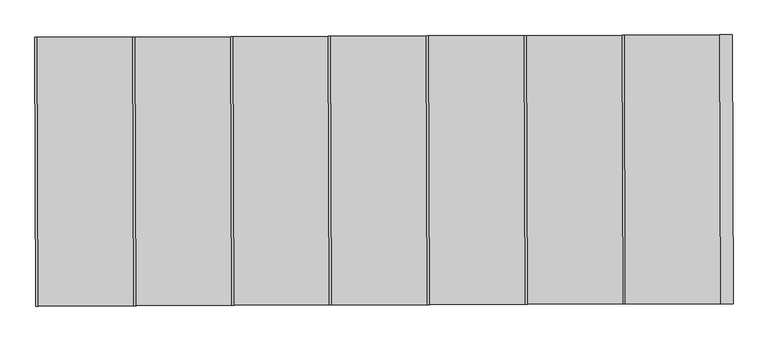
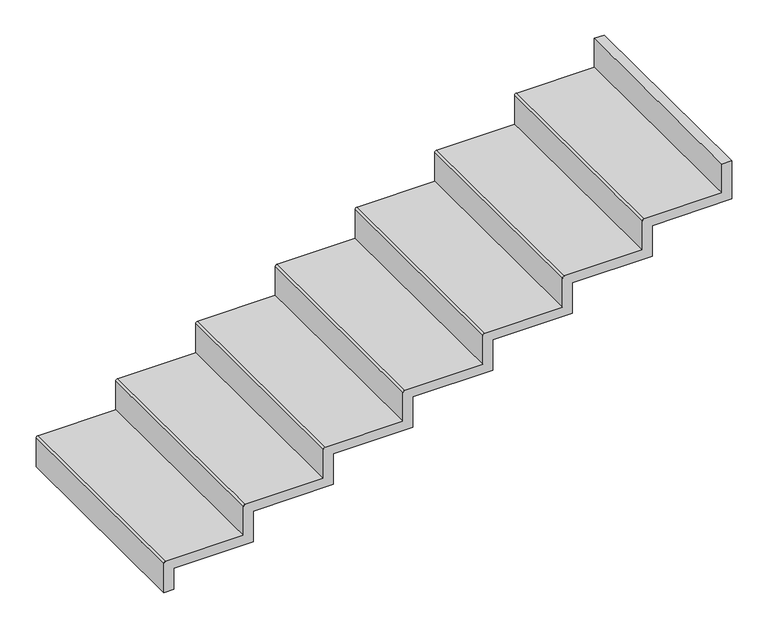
"""IFC4 building model written with IfcOpenShell, lengths in millimetres: stair flight geometry, Huella 50 mm Contrahuella 13 mm."""

from ifc_helpers import new_model, si_unit, frame, origin, place, context, project, spatial, circle_curve, source, transform, mapped, element, save
from ifc_brep_helpers import plane_surface, cylinder_surface, advanced_brep


def stair_flight_b078fae6(model_context):
    return source(origin(), model_context, "Body", "AdvancedBrep", [
        advanced_brep(
        [(30059.1161476, 4035.3442519, -1218.75), (30059.1161476, 4035.3442519, -1370.0), (30109.1158403, 4035.519565, -1370.0), (30109.1158403, 4035.519565, -1258.75), (30509.1133815, 4036.92207, -1258.75), (30509.1133815, 4036.92207, -1097.5), (30909.1109227, 4038.3245751, -1097.5), (30909.1109227, 4038.3245751, -936.25), (31309.1084639, 4039.7270801, -936.25), (31309.1084639, 4039.7270801, -775.0), (31709.1060051, 4041.1295851, -775.0), (31709.1060051, 4041.1295851, -613.75), (32109.1035463, 4042.5320902, -613.75), (32109.1035463, 4042.5320902, -452.5), (32509.1010875, 4043.9345952, -452.5), (32509.1010875, 4043.9345952, -291.25), (32909.0986288, 4045.3371002, -291.25), (32909.0986288, 4045.3371002, -90.0), (32859.0989361, 4045.1617871, -90.0), (32859.0989361, 4045.1617871, -241.25), (32469.1013334, 4043.7943447, -241.25), (32459.1013949, 4043.7592821, -251.25), (32459.1013949, 4043.7592821, -402.5), (32069.1037922, 4042.3918397, -402.5), (32059.1038537, 4042.356777, -412.5), (32059.1038537, 4042.356777, -563.75), (31669.106251, 4040.9893346, -563.75), (31659.1063125, 4040.954272, -573.75), (31659.1063125, 4040.954272, -725.0), (31269.1087098, 4039.5868296, -725.0), (31259.1087713, 4039.551767, -735.0), (31259.1087713, 4039.551767, -886.25), (30869.1111686, 4038.1843246, -886.25), (30859.11123, 4038.1492619, -896.25), (30859.11123, 4038.1492619, -1047.5), (30469.1136274, 4036.7818195, -1047.5), (30459.1136888, 4036.7467569, -1057.5), (30459.1136888, 4036.7467569, -1208.75), (30069.1160862, 4035.3793145, -1208.75), (30105.2589513, 5135.5128037, -1370.0), (30055.2592586, 5135.3374906, -1370.0), (30055.2592586, 5135.3374906, -1218.75), (30065.2591972, 5135.3725532, -1208.75), (30455.2567998, 5136.7399957, -1208.75), (30455.2567998, 5136.7399957, -1057.5), (30465.2567384, 5136.7750583, -1047.5), (30855.254341, 5138.1425007, -1047.5), (30855.2543411, 5138.1425007, -896.25), (30865.2542796, 5138.1775634, -886.25), (31255.2518823, 5139.5450058, -886.25), (31255.2518823, 5139.5450058, -735.0), (31265.2518208, 5139.5800684, -725.0), (31655.2494235, 5140.9475109, -725.0), (31655.2494235, 5140.9475109, -573.75), (31665.249362, 5140.9825735, -563.75), (32055.2469647, 5142.350016, -563.75), (32055.2469647, 5142.350016, -412.5), (32065.2469032, 5142.3850786, -402.5), (32455.2445059, 5143.752521, -402.5), (32455.2445059, 5143.752521, -251.25), (32465.2444444, 5143.7875837, -241.25), (32855.2420471, 5145.1550261, -241.25), (32855.2420471, 5145.1550261, -90.0), (32905.2417398, 5145.3303392, -90.0), (32905.2417398, 5145.3303392, -291.25), (32505.2441986, 5143.9278342, -291.25), (32505.2441986, 5143.9278342, -452.5), (32105.2466573, 5142.5253291, -452.5), (32105.2466573, 5142.5253291, -613.75), (31705.2491161, 5141.122824, -613.75), (31705.2491161, 5141.122824, -775.0), (31305.2515749, 5139.7203189, -775.0), (31305.2515749, 5139.7203189, -936.25), (30905.2540337, 5138.3178139, -936.25), (30905.2540337, 5138.3178139, -1097.5), (30505.2564925, 5136.9153088, -1097.5), (30505.2564925, 5136.9153088, -1258.75), (30105.2589513, 5135.5128037, -1258.75)],
        [
            (0, 1),
            (1, 2),
            (2, 3),
            (3, 4),
            (4, 5),
            (5, 6),
            (6, 7),
            (7, 8),
            (8, 9),
            (9, 10),
            (10, 11),
            (11, 12),
            (12, 13),
            (13, 14),
            (14, 15),
            (15, 16),
            (16, 17),
            (17, 18),
            (18, 19),
            (19, 20),
            (20, 21, circle_curve(frame((32469.1013334, 4043.7943447, -251.25), z_axis=(0.003506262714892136, -0.9999938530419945, 0.0), x_axis=(0.9999938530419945, 0.003506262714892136, 0.0)), 10.0)),
            (21, 22),
            (22, 23),
            (23, 24, circle_curve(frame((32069.1037922, 4042.3918397, -412.5), z_axis=(0.003506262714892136, -0.9999938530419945, 0.0), x_axis=(0.9999938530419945, 0.003506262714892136, 0.0)), 10.0)),
            (24, 25),
            (25, 26),
            (26, 27, circle_curve(frame((31669.106251, 4040.9893346, -573.75), z_axis=(0.003506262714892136, -0.9999938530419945, 0.0), x_axis=(0.9999938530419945, 0.003506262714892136, 0.0)), 10.0)),
            (27, 28),
            (28, 29),
            (29, 30, circle_curve(frame((31269.1087098, 4039.5868296, -735.0), z_axis=(0.003506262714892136, -0.9999938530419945, 0.0), x_axis=(0.9999938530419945, 0.003506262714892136, 0.0)), 10.0)),
            (30, 31),
            (31, 32),
            (32, 33, circle_curve(frame((30869.1111686, 4038.1843246, -896.25), z_axis=(0.003506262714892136, -0.9999938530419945, 0.0), x_axis=(0.9999938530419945, 0.003506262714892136, 0.0)), 10.0)),
            (33, 34),
            (34, 35),
            (35, 36, circle_curve(frame((30469.1136274, 4036.7818195, -1057.5), z_axis=(0.003506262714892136, -0.9999938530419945, 0.0), x_axis=(0.9999938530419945, 0.003506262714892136, 0.0)), 10.0)),
            (36, 37),
            (37, 38),
            (38, 0, circle_curve(frame((30069.1160862, 4035.3793145, -1218.75), z_axis=(0.0035062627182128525, -0.999993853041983, 0.0), x_axis=(0.999993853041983, 0.0035062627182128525, 0.0)), 10.0)),
            (39, 40),
            (40, 41),
            (41, 42, circle_curve(frame((30065.2591972, 5135.3725532, -1218.75), z_axis=(-0.0035062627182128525, 0.999993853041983, 0.0), x_axis=(0.999993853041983, 0.0035062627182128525, 0.0)), 10.0)),
            (42, 43),
            (43, 44),
            (44, 45, circle_curve(frame((30465.2567384, 5136.7750583, -1057.5), z_axis=(-0.003506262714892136, 0.9999938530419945, 0.0), x_axis=(0.9999938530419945, 0.003506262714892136, 0.0)), 10.0)),
            (45, 46),
            (46, 47),
            (47, 48, circle_curve(frame((30865.2542796, 5138.1775634, -896.25), z_axis=(-0.003506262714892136, 0.9999938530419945, 0.0), x_axis=(0.9999938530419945, 0.003506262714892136, 0.0)), 10.0)),
            (48, 49),
            (49, 50),
            (50, 51, circle_curve(frame((31265.2518208, 5139.5800684, -735.0), z_axis=(-0.003506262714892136, 0.9999938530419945, 0.0), x_axis=(0.9999938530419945, 0.003506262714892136, 0.0)), 10.0)),
            (51, 52),
            (52, 53),
            (53, 54, circle_curve(frame((31665.249362, 5140.9825735, -573.75), z_axis=(-0.003506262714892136, 0.9999938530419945, 0.0), x_axis=(0.9999938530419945, 0.003506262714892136, 0.0)), 10.0)),
            (54, 55),
            (55, 56),
            (56, 57, circle_curve(frame((32065.2469032, 5142.3850786, -412.5), z_axis=(-0.003506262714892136, 0.9999938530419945, 0.0), x_axis=(0.9999938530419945, 0.003506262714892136, 0.0)), 10.0)),
            (57, 58),
            (58, 59),
            (59, 60, circle_curve(frame((32465.2444444, 5143.7875837, -251.25), z_axis=(-0.003506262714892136, 0.9999938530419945, 0.0), x_axis=(0.9999938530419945, 0.003506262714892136, 0.0)), 10.0)),
            (60, 61),
            (61, 62),
            (62, 63),
            (63, 64),
            (64, 65),
            (65, 66),
            (66, 67),
            (67, 68),
            (68, 69),
            (69, 70),
            (70, 71),
            (71, 72),
            (72, 73),
            (73, 74),
            (74, 75),
            (75, 76),
            (76, 77),
            (77, 39),
            (0, 41),
            (40, 1),
            (39, 2),
            (77, 3),
            (42, 38),
            (37, 43),
            (76, 4),
            (36, 44),
            (75, 5),
            (45, 35),
            (34, 46),
            (74, 6),
            (33, 47),
            (73, 7),
            (48, 32),
            (31, 49),
            (72, 8),
            (30, 50),
            (71, 9),
            (51, 29),
            (28, 52),
            (70, 10),
            (27, 53),
            (69, 11),
            (54, 26),
            (25, 55),
            (68, 12),
            (24, 56),
            (67, 13),
            (57, 23),
            (22, 58),
            (66, 14),
            (21, 59),
            (65, 15),
            (18, 62),
            (61, 19),
            (64, 16),
            (63, 17),
            (60, 20),
        ],
        [
            plane_surface(frame((30069.1160862, 4035.3793145, -1208.75), z_axis=(0.0035062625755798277, -0.999993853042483, 0.0), x_axis=(0.999993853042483, 0.0035062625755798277, 0.0))),
            plane_surface(frame((30065.2591972, 5135.3725532, -1208.75), z_axis=(-0.003506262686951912, 0.9999938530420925, 0.0), x_axis=(0.9999938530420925, 0.003506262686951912, 0.0))),
            plane_surface(frame((30059.1161476, 4035.3442519, -1218.75), z_axis=(-0.999993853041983, -0.003506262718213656, 0.0), x_axis=(-0.003506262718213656, 0.999993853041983, 0.0))),
            plane_surface(frame((30059.1161476, 4035.3442519, -1370.0), z_axis=(0.0, 0.0, -1.0000000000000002), x_axis=(-0.003506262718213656, 0.999993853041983, 0.0))),
            plane_surface(frame((30109.1158403, 4035.519565, -1370.0), z_axis=(0.999993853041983, 0.003506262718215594, 0.0), x_axis=(-0.003506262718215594, 0.999993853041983, 0.0))),
            plane_surface(frame((30055.2592586, 5135.3374906, -1208.75), z_axis=(0.0, 0.0, 1.0), x_axis=(-0.9999938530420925, -0.003506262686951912, 0.0))),
            plane_surface(frame((30055.2592586, 5135.3374906, -1258.75), z_axis=(0.0, 0.0, -1.0), x_axis=(0.9999938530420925, 0.003506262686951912, 0.0))),
            plane_surface(frame((30459.1136888, 4036.7467569, -1057.5), z_axis=(-0.9999938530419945, -0.003506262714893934, 0.0), x_axis=(-0.003506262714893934, 0.9999938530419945, 0.0))),
            plane_surface(frame((30509.1133815, 4036.92207, -1258.75), z_axis=(0.9999938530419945, 0.003506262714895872, 0.0), x_axis=(-0.003506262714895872, 0.9999938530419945, 0.0))),
            plane_surface(frame((30055.2592586, 5135.3374906, -1047.5), z_axis=(0.0, 0.0, 1.0), x_axis=(-0.9999938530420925, -0.003506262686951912, 0.0))),
            plane_surface(frame((30055.2592586, 5135.3374906, -1097.5), z_axis=(0.0, 0.0, -1.0), x_axis=(0.9999938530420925, 0.003506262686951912, 0.0))),
            plane_surface(frame((30859.11123, 4038.149262, -896.25), z_axis=(-0.9999938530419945, -0.003506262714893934, 0.0), x_axis=(-0.003506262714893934, 0.9999938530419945, 0.0))),
            plane_surface(frame((30909.1109227, 4038.3245751, -1097.5), z_axis=(0.9999938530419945, 0.003506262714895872, 0.0), x_axis=(-0.003506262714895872, 0.9999938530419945, 0.0))),
            plane_surface(frame((30455.2567998, 5136.7399957, -886.25), z_axis=(0.0, 0.0, 1.0), x_axis=(-0.9999938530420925, -0.003506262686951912, 0.0))),
            plane_surface(frame((30455.2567998, 5136.7399957, -936.25), z_axis=(0.0, 0.0, -1.0), x_axis=(0.9999938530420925, 0.003506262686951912, 0.0))),
            plane_surface(frame((31259.1087713, 4039.5517671, -735.0), z_axis=(-0.9999938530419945, -0.003506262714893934, 0.0), x_axis=(-0.003506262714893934, 0.9999938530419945, 0.0))),
            plane_surface(frame((31309.1084639, 4039.7270802, -936.25), z_axis=(0.9999938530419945, 0.003506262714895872, 0.0), x_axis=(-0.003506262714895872, 0.9999938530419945, 0.0))),
            plane_surface(frame((30855.2543411, 5138.1425007, -725.0), z_axis=(0.0, 0.0, 1.0), x_axis=(-0.9999938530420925, -0.003506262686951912, 0.0))),
            plane_surface(frame((30855.2543411, 5138.1425007, -775.0), z_axis=(0.0, 0.0, -1.0), x_axis=(0.9999938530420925, 0.003506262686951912, 0.0))),
            plane_surface(frame((31659.1063125, 4040.9542721, -573.75), z_axis=(-0.9999938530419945, -0.003506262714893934, 0.0), x_axis=(-0.003506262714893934, 0.9999938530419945, 0.0))),
            plane_surface(frame((31709.1060051, 4041.1295853, -775.0), z_axis=(0.9999938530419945, 0.003506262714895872, 0.0), x_axis=(-0.003506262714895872, 0.9999938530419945, 0.0))),
            plane_surface(frame((31255.2518823, 5139.5450058, -563.75), z_axis=(0.0, 0.0, 1.0), x_axis=(-0.9999938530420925, -0.003506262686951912, 0.0))),
            plane_surface(frame((31255.2518823, 5139.5450058, -613.75), z_axis=(0.0, 0.0, -1.0), x_axis=(0.9999938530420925, 0.003506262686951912, 0.0))),
            plane_surface(frame((32059.1038537, 4042.3567772, -412.5), z_axis=(-0.9999938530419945, -0.003506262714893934, 0.0), x_axis=(-0.003506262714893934, 0.9999938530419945, 0.0))),
            plane_surface(frame((32109.1035463, 4042.5320903, -613.75), z_axis=(0.9999938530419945, 0.003506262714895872, 0.0), x_axis=(-0.003506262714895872, 0.9999938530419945, 0.0))),
            plane_surface(frame((31655.2494235, 5140.9475109, -402.5), z_axis=(0.0, 0.0, 1.0), x_axis=(-0.9999938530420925, -0.003506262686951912, 0.0))),
            plane_surface(frame((31655.2494235, 5140.9475109, -452.5), z_axis=(0.0, 0.0, -1.0), x_axis=(0.9999938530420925, 0.003506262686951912, 0.0))),
            plane_surface(frame((32459.1013949, 4043.7592823, -251.25), z_axis=(-0.9999938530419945, -0.003506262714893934, 0.0), x_axis=(-0.003506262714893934, 0.9999938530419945, 0.0))),
            plane_surface(frame((32509.1010875, 4043.9345954, -452.5), z_axis=(0.9999938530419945, 0.003506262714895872, 0.0), x_axis=(-0.003506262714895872, 0.9999938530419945, 0.0))),
            plane_surface(frame((32859.0989361, 4045.1617871, -90.0), z_axis=(-0.9999938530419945, -0.0035062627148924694, 0.0), x_axis=(-0.0035062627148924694, 0.9999938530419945, 0.0))),
            plane_surface(frame((32859.0989361, 4045.1617871, -291.25), z_axis=(0.0, 0.0, -1.0), x_axis=(-0.0035062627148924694, 0.9999938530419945, 0.0))),
            plane_surface(frame((32909.0986288, 4045.3371002, -291.25), z_axis=(0.9999938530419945, 0.0035062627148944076, 0.0), x_axis=(-0.0035062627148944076, 0.9999938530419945, 0.0))),
            plane_surface(frame((32909.0986288, 4045.3371002, -90.0), z_axis=(0.0, 0.0, 1.0), x_axis=(-0.0035062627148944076, 0.9999938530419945, 0.0))),
            plane_surface(frame((32055.2469647, 5142.350016, -241.25), z_axis=(0.0, 0.0, 1.0), x_axis=(-0.9999938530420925, -0.003506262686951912, 0.0))),
            cylinder_surface(frame((30069.1160862, 4035.3793145, -1218.75), z_axis=(0.0035062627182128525, -0.999993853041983, 0.0), x_axis=(0.999993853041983, 0.0035062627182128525, 0.0)), 10.0),
            cylinder_surface(frame((30469.1136274, 4036.7818195, -1057.5), z_axis=(0.003506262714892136, -0.9999938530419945, 0.0), x_axis=(0.9999938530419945, 0.003506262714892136, 0.0)), 10.0),
            cylinder_surface(frame((30869.1111686, 4038.1843246, -896.25), z_axis=(0.003506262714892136, -0.9999938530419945, 0.0), x_axis=(0.9999938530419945, 0.003506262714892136, 0.0)), 10.0),
            cylinder_surface(frame((31269.1087098, 4039.5868297, -735.0), z_axis=(0.003506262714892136, -0.9999938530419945, 0.0), x_axis=(0.9999938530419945, 0.003506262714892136, 0.0)), 10.0),
            cylinder_surface(frame((31669.106251, 4040.9893348, -573.75), z_axis=(0.003506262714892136, -0.9999938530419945, 0.0), x_axis=(0.9999938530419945, 0.003506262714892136, 0.0)), 10.0),
            cylinder_surface(frame((32069.1037922, 4042.3918398, -412.5), z_axis=(0.003506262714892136, -0.9999938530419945, 0.0), x_axis=(0.9999938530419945, 0.003506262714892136, 0.0)), 10.0),
            cylinder_surface(frame((32469.1013334, 4043.7943449, -251.25), z_axis=(0.003506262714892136, -0.9999938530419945, 0.0), x_axis=(0.9999938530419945, 0.003506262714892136, 0.0)), 10.0),
        ],
        [
            (0, [[1, 2, 3, 4, 5, 6, 7, 8, 9, 10, 11, 12, 13, 14, 15, 16, 17, 18, 19, 20, 21, 22, 23, 24, 25, 26, 27, 28, 29, 30, 31, 32, 33, 34, 35, 36, 37, 38, 39]]),
            (1, [[40, 41, 42, 43, 44, 45, 46, 47, 48, 49, 50, 51, 52, 53, 54, 55, 56, 57, 58, 59, 60, 61, 62, 63, 64, 65, 66, 67, 68, 69, 70, 71, 72, 73, 74, 75, 76, 77, 78]]),
            (2, [[-1, 79, -41, 80]]),
            (3, [[-2, -80, -40, 81]]),
            (4, [[-81, -78, 82, -3]]),
            (5, [[-43, 83, -38, 84]]),
            (6, [[-82, -77, 85, -4]]),
            (7, [[-44, -84, -37, 86]]),
            (8, [[-85, -76, 87, -5]]),
            (9, [[-46, 88, -35, 89]]),
            (10, [[-87, -75, 90, -6]]),
            (11, [[-47, -89, -34, 91]]),
            (12, [[-90, -74, 92, -7]]),
            (13, [[-49, 93, -32, 94]]),
            (14, [[-92, -73, 95, -8]]),
            (15, [[-50, -94, -31, 96]]),
            (16, [[-95, -72, 97, -9]]),
            (17, [[-52, 98, -29, 99]]),
            (18, [[-97, -71, 100, -10]]),
            (19, [[-53, -99, -28, 101]]),
            (20, [[-100, -70, 102, -11]]),
            (21, [[-55, 103, -26, 104]]),
            (22, [[-102, -69, 105, -12]]),
            (23, [[-56, -104, -25, 106]]),
            (24, [[-105, -68, 107, -13]]),
            (25, [[-58, 108, -23, 109]]),
            (26, [[-107, -67, 110, -14]]),
            (27, [[-59, -109, -22, 111]]),
            (28, [[-110, -66, 112, -15]]),
            (29, [[113, -62, 114, -19]]),
            (30, [[-16, -112, -65, 115]]),
            (31, [[-17, -115, -64, 116]]),
            (32, [[-18, -116, -63, -113]]),
            (33, [[-61, 117, -20, -114]]),
            (34, [[-83, -42, -79, -39]]),
            (35, [[-88, -45, -86, -36]]),
            (36, [[-93, -48, -91, -33]]),
            (37, [[-98, -51, -96, -30]]),
            (38, [[-103, -54, -101, -27]]),
            (39, [[-108, -57, -106, -24]]),
            (40, [[-117, -60, -111, -21]]),
        ],
    ),
    ])


if __name__ == "__main__":
    model = new_model("IFC4")
    model_context = context("Model", 3, world=origin())
    ifc_project = project(units=[si_unit("LENGTHUNIT", "METRE", prefix="MILLI")], contexts=[model_context])
    site = spatial("IfcSite", under=ifc_project)
    building = spatial("IfcBuilding", under=site)
    placement = place(None, origin())
    stair_flight_shape = stair_flight_b078fae6(model_context)
    element("IfcStairFlight", 1, ObjectType="Huella 50 mm Contrahuella 13 mm", at=placement, inside=building, context=model_context, shape_type="MappedRepresentation", body=[
        mapped(stair_flight_shape, transform((0.0, 0.0, 0.0), x_axis=(1.0, 0.0, 0.0), y_axis=(0.0, 1.0, 0.0), z_axis=(0.0, 0.0, 1.0))),
    ])
    save(model, "model.ifc")
